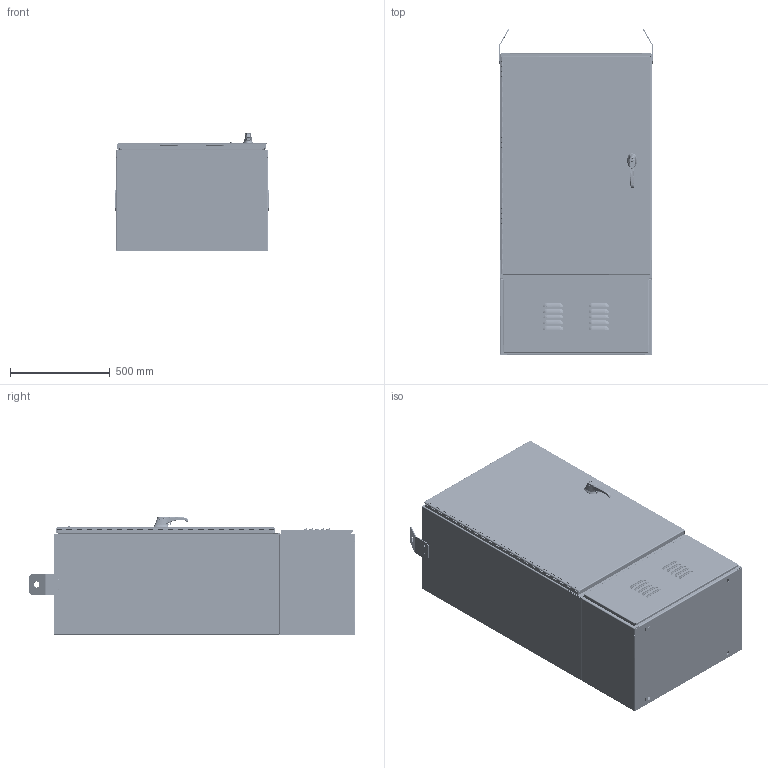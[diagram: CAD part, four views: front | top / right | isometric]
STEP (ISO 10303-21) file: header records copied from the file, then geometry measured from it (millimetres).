
FILE_DESCRIPTION (( 'STEP AP203' ), '1' );
FILE_NAME ('t503020fttx.STEP', '2011-07-12T12:41:12', ( 'Hoffman User' ), ( 'Hoffman Enclosures' ), 'SwSTEP 2.0', 'SolidWorks 2010', '' );
FILE_SCHEMA (( 'CONFIG_CONTROL_DESIGN' ));
Products named in the file (78): 89058579_89058579; 87921848_87921848; 89050095; 87921873_87921873; 87920598_87920598; 87561705_87561705; 87920592_87920592; 89058580_89058580; 87921852_87921852; 87561605_Installed; 89063675_89063675; 89063674_89063674; 99404052_99404052; 99415470_99415470; 89063684; 89063679; 89063681; 89063691; 89063680; 89063682; 89063683; 87560141; 89063673_89063673; 87920594_87920594; 87578925_87578925; 87920596; 87929874_87929873; 89063672_89063672; 89063671_89063671; 89063670_89063670; 99404049_99404049; 27301003; 22108007; 87560090; 26118002_26118002; 26274010_26274010; 26273010_26273010; 30101003; 27115001; 22318002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
Assembly tree (174 placements, depth 5):
  t503020fttx
    89063678_89063678
      89063675_89063675
        99404052_99404052  x12
        99415470_99415470  x2
        89063674_89063674
      89058580_89058580
        87561605_Installed  x9
        87921852_87921852
        99404049_99404049  x4
      89063684
        89063679
        89063683  x2
        89063691
          99404049_99404049  x2
          89063680
        89063682
        89063681
      89058579_89058579
        99404050_99404050  x4
        99415470_99415470  x7
        87921848_87921848
        87561705_87561705  x8
        87921873_87921873  x2
        87920598_87920598  x2
        87920592_87920592  x2
        89050095  x4
    87929874_87929873
    87560141  x3
    89063690
      89063688  x2
      89063689
      89063687  x2
    87920596  x2
    89050557
      99404050_99404050  x24
      89049951
    87578925_87578925
    89063686
      89066228  x2
      87935488  x2
      10-1015-103  x4
      89063685
      89067162
      89067161
    87920594_87920594  x2
    87578937_87578937
      87419080_87933944
      87948515_87933843
    87559870
    87794148
    89063672_89063672
      99401452  x2
      87558344_Installed  x2
      26274010_26274010  x2
        22318002
        27115001
        30101003
        26273010_26273010
      27115004  x2
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Bounding box: 773.33 x 1635.93 x 591.9 mm (x, y, z)
Volume: 22775362.6 mm3; surface area: 14899357.6 mm2
Topology: 169 solids, 169 shells, 15399 faces, 42543 edges, 27717 vertices
Faces by surface type: plane 7784, cylinder 4700, cone 1396, bspline 1143, torus 344, sphere 32
Entity records: 275109 total; most frequent: CARTESIAN_POINT 98756, ORIENTED_EDGE 35342, DIRECTION 32561, EDGE_CURVE 17671, AXIS2_PLACEMENT_3D 11509, VERTEX_POINT 11432, VECTOR 9543, LINE 9543
